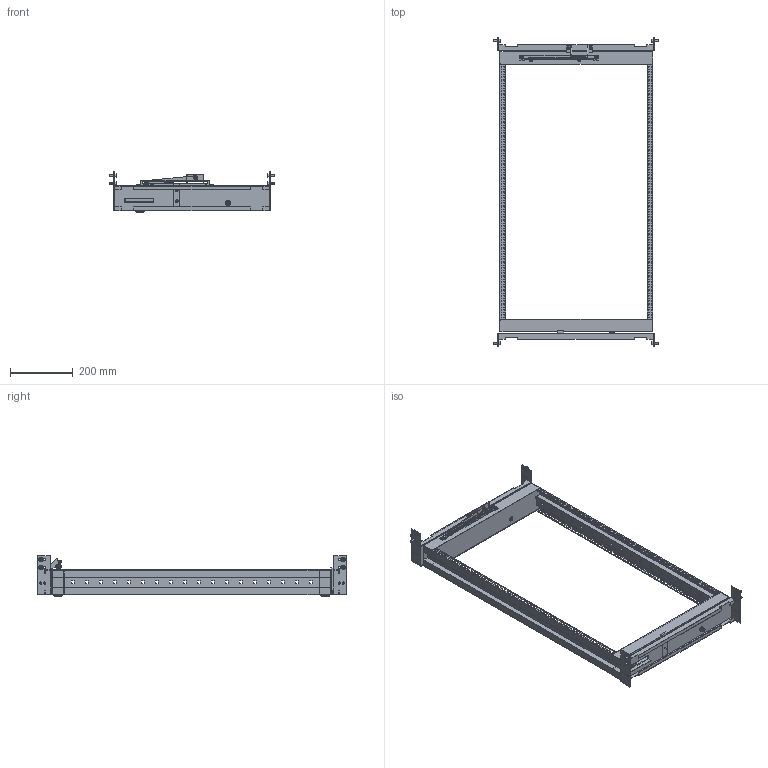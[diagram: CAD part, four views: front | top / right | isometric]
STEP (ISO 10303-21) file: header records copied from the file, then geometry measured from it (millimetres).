
FILE_DESCRIPTION(('Open CASCADE Model'),'2;1');
FILE_NAME('Open CASCADE Shape Model','2025-03-24T10:14:36',('Author'),( 'Open CASCADE'),'Open CASCADE STEP processor 7.8','Open CASCADE 7.8' ,'Unknown');
FILE_SCHEMA(('AUTOMOTIVE_DESIGN { 1 0 10303 214 1 1 1 1 }'));
Length unit declared in the file: millimetre
Products named in the file (28): Compound1; Compound2; Solid1; Solid2; Compound3; Solid3; Solid4; Solid5; Solid6; Solid7; Solid8; Solid9; Solid10; Solid11; Solid12; Solid13; Solid14; Compound4; Solid15; Solid16; Solid17; Solid18; Compound5; Solid19; Solid20; Solid21; Solid22; Solid23
Assembly tree (44 placements, depth 3):
  Compound1
    Compound2
      Solid1
      Solid2
    Compound3
      Solid3
      Solid2
    Solid4  x2
    Solid5  x2
    Solid6
    Solid7
    Solid8
    Solid9
    Solid10
    Solid11  x2
    Solid12  x4
    Solid13  x8
    Solid14
    Compound4
      Solid15
      Solid16
    Solid17
    Solid18
    Compound5
      Solid19  x2
      Solid20
      Solid21  x2
      Solid22
      Solid23  x2
Bounding box: 526 x 981.5 x 130 mm (x, y, z)
Volume: 1053759.6 mm3; surface area: 1288417.2 mm2
Topology: 40 solids, 58 shells, 3344 faces, 9489 edges, 6215 vertices
Faces by surface type: plane 2134, cylinder 594, cone 222, bspline 180, torus 156, sphere 58
Entity records: 67815 total; most frequent: CARTESIAN_POINT 17942, ORIENTED_EDGE 10434, DIRECTION 9507, EDGE_CURVE 5387, LINE 3915, VECTOR 3915, VERTEX_POINT 3564, AXIS2_PLACEMENT_3D 2796
